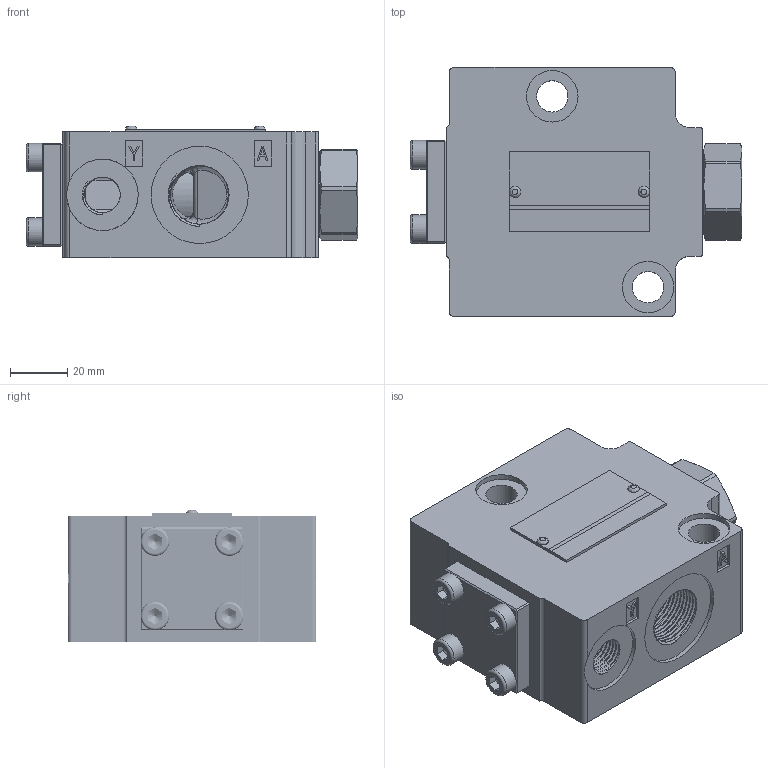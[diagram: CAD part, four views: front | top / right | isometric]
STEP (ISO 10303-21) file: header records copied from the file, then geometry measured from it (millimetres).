
FILE_DESCRIPTION(/* description */ (''),/* implementation_level */ '2;1');
FILE_NAME(/* name */ 'SL10G-4XJ液控单向阀（管式）.prt.stp',/* time_stamp */ '2022-03-30T19:18:15+08:00',/* author */ (''),/* organization */ (''),/* preprocessor_version */ 'ST-DEVELOPER v16.7',/* originating_system */ 'SIEMENS PLM Software NX 12.0',/* authorisation */ '');
FILE_SCHEMA (('AUTOMOTIVE_DESIGN { 1 0 10303 214 3 1 1 1 }'));
Products named in the file (1): SL10G-4XJ液控单向阀（管式）
Bounding box: 116 x 87 x 46 mm (x, y, z)
Volume: 29750.7 mm3; surface area: 62981.9 mm2
Topology: 9 solids, 10 shells, 522 faces, 1330 edges, 857 vertices
Faces by surface type: plane 240, cylinder 140, cone 47, bspline 44, extrusion 26, torus 25
Full cylindrical faces by diameter (mm): 1.8 x2, 1.87 x2, 1.9 x2, 2.459 x1, 3.6 x2, 5 x36, 6.6 x4, 10 x4, 11 x2, 18 x2, 18.2 x1, 19.2 x1, 22 x3, 23 x2, 24.8 x2, 25 x2, 27.5 x3, 34 x2, 36 x1
Entity records: 55997 total; most frequent: CARTESIAN_POINT 44736, ORIENTED_EDGE 2136, DIRECTION 1875, EDGE_CURVE 1068, VERTEX_POINT 736, AXIS2_PLACEMENT_3D 689, EDGE_LOOP 627, VECTOR 497
